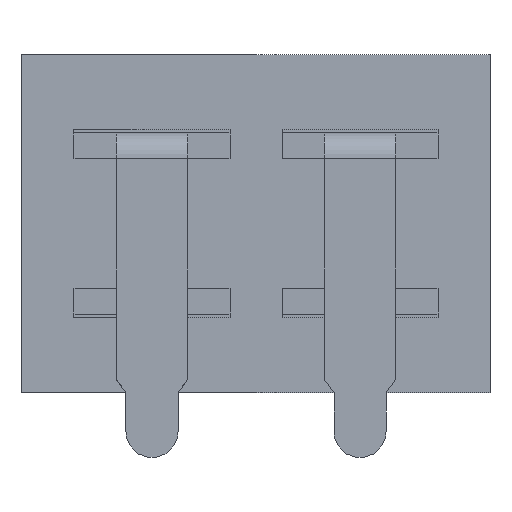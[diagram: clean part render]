
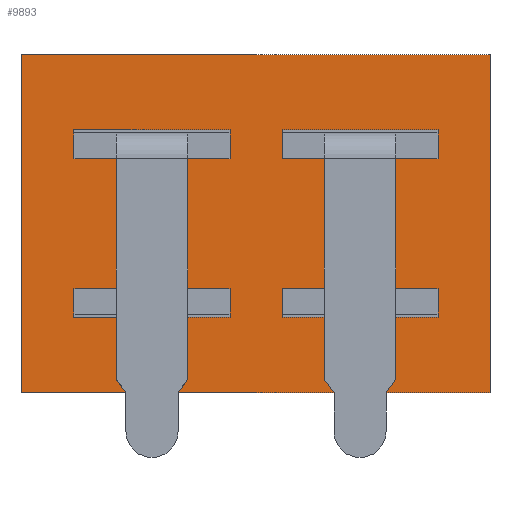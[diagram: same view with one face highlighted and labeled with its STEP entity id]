
A CAD part, front view. The second image highlights one B-rep face of the part: STEP entity #9893.
In plain terms, the highlighted planar face has unit normal (0, -1, 0).
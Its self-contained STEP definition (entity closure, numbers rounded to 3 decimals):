
#777=VERTEX_POINT('',#12104);
#786=VERTEX_POINT('',#12122);
#787=VERTEX_POINT('',#12124);
#800=VERTEX_POINT('',#12149);
#1283=VERTEX_POINT('',#14686);
#1284=VERTEX_POINT('',#14688);
#1474=VERTEX_POINT('',#15579);
#1475=VERTEX_POINT('',#15581);
#1484=VERTEX_POINT('',#15599);
#1485=VERTEX_POINT('',#15600);
#1492=VERTEX_POINT('',#15617);
#1493=VERTEX_POINT('',#15618);
#1529=VERTEX_POINT('',#15706);
#1533=VERTEX_POINT('',#15717);
#1548=VERTEX_POINT('',#15776);
#1549=VERTEX_POINT('',#15778);
#1555=VERTEX_POINT('',#15790);
#1567=VERTEX_POINT('',#15813);
#1630=VERTEX_POINT('',#16059);
#1631=VERTEX_POINT('',#16061);
#1640=VERTEX_POINT('',#16079);
#1641=VERTEX_POINT('',#16080);
#1648=VERTEX_POINT('',#16096);
#1649=VERTEX_POINT('',#16097);
#1685=VERTEX_POINT('',#16185);
#1689=VERTEX_POINT('',#16196);
#1704=VERTEX_POINT('',#16260);
#1705=VERTEX_POINT('',#16266);
#1771=VECTOR('',#10441,1.);
#2266=VECTOR('',#11082,1.);
#2442=VECTOR('',#11428,1.);
#2456=VECTOR('',#11450,1.);
#2519=VECTOR('',#11554,1.);
#2528=VECTOR('',#11568,1.);
#2549=VECTOR('',#11615,1.);
#2551=VECTOR('',#11618,1.);
#2600=VECTOR('',#11787,1.);
#2614=VECTOR('',#11807,1.);
#2677=VECTOR('',#11911,1.);
#2685=VECTOR('',#11936,1.);
#2689=VECTOR('',#11941,1.);
#2693=VECTOR('',#11946,1.);
#2704=VECTOR('',#11971,1.);
#2706=VECTOR('',#11974,1.);
#2766=LINE('',#12123,#1771);
#3261=LINE('',#14687,#2266);
#3437=LINE('',#15580,#2442);
#3451=LINE('',#15616,#2456);
#3514=LINE('',#15755,#2519);
#3523=LINE('',#15777,#2528);
#3544=LINE('',#15833,#2549);
#3546=LINE('',#15836,#2551);
#3595=LINE('',#16060,#2600);
#3609=LINE('',#16095,#2614);
#3672=LINE('',#16234,#2677);
#3680=LINE('',#16261,#2685);
#3684=LINE('',#16267,#2689);
#3688=LINE('',#16273,#2693);
#3699=LINE('',#16300,#2704);
#3701=LINE('',#16303,#2706);
#3777=EDGE_CURVE('',#787,#786,#2766,.T.);
#3791=EDGE_CURVE('',#777,#800,#2766,.T.);
#4514=EDGE_CURVE('',#1283,#1284,#3261,.T.);
#4804=EDGE_CURVE('',#1475,#1474,#3437,.T.);
#4815=EDGE_CURVE('',#1485,#1484,#3437,.T.);
#4828=EDGE_CURVE('',#1492,#1493,#3451,.T.);
#4905=EDGE_CURVE('',#1529,#1533,#3514,.T.);
#4906=EDGE_CURVE('',#1484,#1492,#3451,.T.);
#4907=EDGE_CURVE('',#1493,#787,#3451,.T.);
#4908=EDGE_CURVE('',#1475,#1529,#3514,.T.);
#4918=EDGE_CURVE('',#1548,#1549,#3523,.T.);
#4938=EDGE_CURVE('',#1567,#1555,#3523,.T.);
#4948=EDGE_CURVE('',#1474,#777,#3544,.T.);
#4949=EDGE_CURVE('',#1533,#800,#3514,.T.);
#4951=EDGE_CURVE('',#1485,#786,#3546,.T.);
#5046=EDGE_CURVE('',#1631,#1630,#3595,.T.);
#5057=EDGE_CURVE('',#1641,#1640,#3595,.T.);
#5070=EDGE_CURVE('',#1648,#1649,#3609,.T.);
#5147=EDGE_CURVE('',#1685,#1689,#3672,.T.);
#5148=EDGE_CURVE('',#1640,#1648,#3609,.T.);
#5149=EDGE_CURVE('',#1649,#1549,#3609,.T.);
#5150=EDGE_CURVE('',#1631,#1685,#3672,.T.);
#5162=EDGE_CURVE('',#1704,#1283,#3680,.T.);
#5166=EDGE_CURVE('',#1705,#1704,#3684,.T.);
#5170=EDGE_CURVE('',#1705,#1284,#3688,.T.);
#5185=EDGE_CURVE('',#1630,#1555,#3699,.T.);
#5186=EDGE_CURVE('',#1689,#1567,#3672,.T.);
#5188=EDGE_CURVE('',#1641,#1548,#3701,.T.);
#8140=ORIENTED_EDGE('',*,*,#5162,.F.);
#8141=ORIENTED_EDGE('',*,*,#5166,.F.);
#8142=ORIENTED_EDGE('',*,*,#5170,.T.);
#8143=ORIENTED_EDGE('',*,*,#4514,.F.);
#8144=ORIENTED_EDGE('',*,*,#3791,.T.);
#8145=ORIENTED_EDGE('',*,*,#4949,.F.);
#8146=ORIENTED_EDGE('',*,*,#4905,.F.);
#8147=ORIENTED_EDGE('',*,*,#4908,.F.);
#8148=ORIENTED_EDGE('',*,*,#4804,.T.);
#8149=ORIENTED_EDGE('',*,*,#4948,.T.);
#8150=ORIENTED_EDGE('',*,*,#4907,.T.);
#8151=ORIENTED_EDGE('',*,*,#3777,.T.);
#8152=ORIENTED_EDGE('',*,*,#4951,.F.);
#8153=ORIENTED_EDGE('',*,*,#4815,.T.);
#8154=ORIENTED_EDGE('',*,*,#4906,.T.);
#8155=ORIENTED_EDGE('',*,*,#4828,.T.);
#8156=ORIENTED_EDGE('',*,*,#4938,.F.);
#8157=ORIENTED_EDGE('',*,*,#5186,.F.);
#8158=ORIENTED_EDGE('',*,*,#5147,.F.);
#8159=ORIENTED_EDGE('',*,*,#5150,.F.);
#8160=ORIENTED_EDGE('',*,*,#5046,.T.);
#8161=ORIENTED_EDGE('',*,*,#5185,.T.);
#8162=ORIENTED_EDGE('',*,*,#5149,.T.);
#8163=ORIENTED_EDGE('',*,*,#4918,.F.);
#8164=ORIENTED_EDGE('',*,*,#5188,.F.);
#8165=ORIENTED_EDGE('',*,*,#5057,.T.);
#8166=ORIENTED_EDGE('',*,*,#5148,.T.);
#8167=ORIENTED_EDGE('',*,*,#5070,.T.);
#8753=EDGE_LOOP('',(#8140,#8141,#8142,#8143));
#8754=EDGE_LOOP('',(#8144,#8145,#8146,#8147,#8148,#8149));
#8755=EDGE_LOOP('',(#8150,#8151,#8152,#8153,#8154,#8155));
#8756=EDGE_LOOP('',(#8156,#8157,#8158,#8159,#8160,#8161));
#8757=EDGE_LOOP('',(#8162,#8163,#8164,#8165,#8166,#8167));
#9343=FACE_BOUND('',#8753,.T.);
#9344=FACE_BOUND('',#8754,.T.);
#9345=FACE_BOUND('',#8755,.T.);
#9346=FACE_BOUND('',#8756,.T.);
#9347=FACE_BOUND('',#8757,.T.);
#9893=ADVANCED_FACE('',(#9343,#9344,#9345,#9346,#9347),#16619,.T.);
#10358=AXIS2_PLACEMENT_3D('',#16310,#11981,$);
#10441=DIRECTION('',(0.,0.,-1.));
#11082=DIRECTION('',(0.,0.,-1.));
#11428=DIRECTION('',(0.,0.,1.));
#11450=DIRECTION('',(1.,0.,0.));
#11554=DIRECTION('',(1.,0.,0.));
#11568=DIRECTION('',(0.,0.,1.));
#11615=DIRECTION('',(1.,0.,0.));
#11618=DIRECTION('',(1.,0.,0.));
#11787=DIRECTION('',(0.,0.,1.));
#11807=DIRECTION('',(1.,0.,0.));
#11911=DIRECTION('',(1.,0.,0.));
#11936=DIRECTION('',(1.,0.,0.));
#11941=DIRECTION('',(0.,0.,1.));
#11946=DIRECTION('',(1.,0.,0.));
#11971=DIRECTION('',(1.,0.,0.));
#11974=DIRECTION('',(1.,0.,0.));
#11981=DIRECTION('',(0.,-1.,0.));
#12104=CARTESIAN_POINT('',(32.,0.,-5.8));
#12122=CARTESIAN_POINT('',(32.,0.,-20.2));
#12123=CARTESIAN_POINT('',(32.,0.,0.));
#12124=CARTESIAN_POINT('',(32.,0.,-18.));
#12149=CARTESIAN_POINT('',(32.,0.,-8.));
#14686=CARTESIAN_POINT('',(36.,0.,0.));
#14687=CARTESIAN_POINT('',(36.,0.,0.));
#14688=CARTESIAN_POINT('',(36.,0.,-26.));
#15579=CARTESIAN_POINT('',(20.,0.,-5.8));
#15580=CARTESIAN_POINT('',(20.,0.,-26.));
#15581=CARTESIAN_POINT('',(20.,0.,-8.));
#15599=CARTESIAN_POINT('',(20.,0.,-18.));
#15600=CARTESIAN_POINT('',(20.,0.,-20.2));
#15616=CARTESIAN_POINT('',(20.,0.,-18.));
#15617=CARTESIAN_POINT('',(23.25,0.,-18.));
#15618=CARTESIAN_POINT('',(28.75,0.,-18.));
#15706=CARTESIAN_POINT('',(23.25,0.,-8.));
#15717=CARTESIAN_POINT('',(28.75,0.,-8.));
#15755=CARTESIAN_POINT('',(20.,0.,-8.));
#15776=CARTESIAN_POINT('',(16.,0.,-20.2));
#15777=CARTESIAN_POINT('',(16.,0.,-26.));
#15778=CARTESIAN_POINT('',(16.,0.,-18.));
#15790=CARTESIAN_POINT('',(16.,0.,-5.8));
#15813=CARTESIAN_POINT('',(16.,0.,-8.));
#15833=CARTESIAN_POINT('',(20.,0.,-5.8));
#15836=CARTESIAN_POINT('',(20.,0.,-20.2));
#16059=CARTESIAN_POINT('',(4.,0.,-5.8));
#16060=CARTESIAN_POINT('',(4.,0.,-26.));
#16061=CARTESIAN_POINT('',(4.,0.,-8.));
#16079=CARTESIAN_POINT('',(4.,0.,-18.));
#16080=CARTESIAN_POINT('',(4.,0.,-20.2));
#16095=CARTESIAN_POINT('',(4.,0.,-18.));
#16096=CARTESIAN_POINT('',(7.25,0.,-18.));
#16097=CARTESIAN_POINT('',(12.75,0.,-18.));
#16185=CARTESIAN_POINT('',(7.25,0.,-8.));
#16196=CARTESIAN_POINT('',(12.75,0.,-8.));
#16234=CARTESIAN_POINT('',(4.,0.,-8.));
#16260=CARTESIAN_POINT('',(0.,0.,0.));
#16261=CARTESIAN_POINT('',(0.,0.,0.));
#16266=CARTESIAN_POINT('',(0.,0.,-26.));
#16267=CARTESIAN_POINT('',(0.,0.,-26.));
#16273=CARTESIAN_POINT('',(0.,0.,-26.));
#16300=CARTESIAN_POINT('',(4.,0.,-5.8));
#16303=CARTESIAN_POINT('',(4.,0.,-20.2));
#16310=CARTESIAN_POINT('',(0.,0.,-13.));
#16619=PLANE('',#10358);
